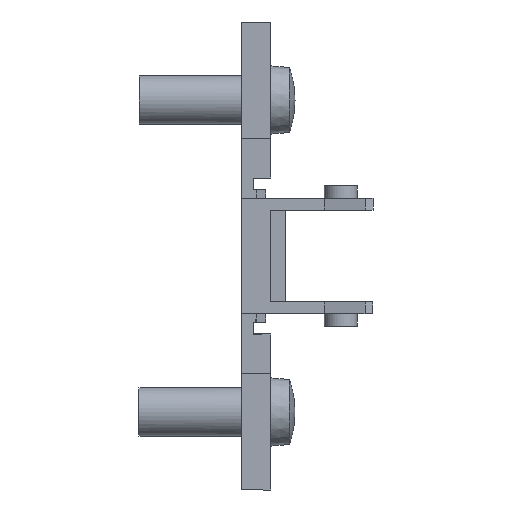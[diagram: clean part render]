
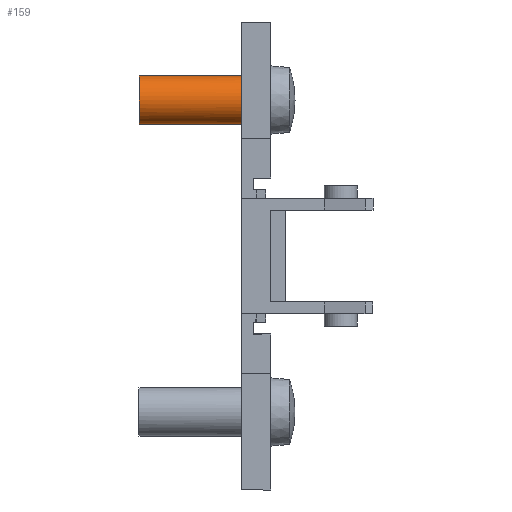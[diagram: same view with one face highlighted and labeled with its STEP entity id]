
A CAD part, front view. The second image highlights one B-rep face of the part: STEP entity #159.
In plain terms, the highlighted cylindrical face has radius 2.5 mm (diameter 5 mm), a partial arc.
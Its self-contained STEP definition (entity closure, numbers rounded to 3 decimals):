
#159 = ADVANCED_FACE ( 'NONE', ( #4139 ), #4166, .T. ) ;
#258 = EDGE_CURVE ( 'NONE', #4085, #4051, #3520, .T. ) ;
#315 = AXIS2_PLACEMENT_3D ( 'NONE', #3418, #3482, #3424 ) ;
#348 = AXIS2_PLACEMENT_3D ( 'NONE', #1349, #1348, #1320 ) ;
#410 = EDGE_CURVE ( 'NONE', #4064, #4069, #3633, .T. ) ;
#467 = AXIS2_PLACEMENT_3D ( 'NONE', #2179, #2205, #2206 ) ;
#495 = EDGE_CURVE ( 'NONE', #4051, #4069, #3670, .T. ) ;
#603 = AXIS2_PLACEMENT_3D ( 'NONE', #3217, #3332, #3333 ) ;
#611 = EDGE_CURVE ( 'NONE', #4070, #4065, #3774, .T. ) ;
#620 = AXIS2_PLACEMENT_3D ( 'NONE', #1725, #1733, #1734 ) ;
#1320 = DIRECTION ( 'NONE',  ( 0., 0., -1. ) ) ;
#1348 = DIRECTION ( 'NONE',  ( -1., 0., 0. ) ) ;
#1349 = CARTESIAN_POINT ( 'NONE',  ( -10.5, 0., 16. ) ) ;
#1513 = EDGE_CURVE ( 'NONE', #4070, #4064, #3875, .T. ) ;
#1573 = EDGE_CURVE ( 'NONE', #4065, #4085, #3986, .T. ) ;
#1625 = CARTESIAN_POINT ( 'NONE',  ( -10.5, 0., 13.5 ) ) ;
#1628 = DIRECTION ( 'NONE',  ( -1., 0., 0. ) ) ;
#1725 = CARTESIAN_POINT ( 'NONE',  ( 0., 0., 16. ) ) ;
#1733 = DIRECTION ( 'NONE',  ( 1., 0., 0. ) ) ;
#1734 = DIRECTION ( 'NONE',  ( 0., 0., -1. ) ) ;
#2079 = CARTESIAN_POINT ( 'NONE',  ( -10.5, 0., 18.5 ) ) ;
#2080 = DIRECTION ( 'NONE',  ( -1., 0., 0. ) ) ;
#2179 = CARTESIAN_POINT ( 'NONE',  ( 0., 0., 16. ) ) ;
#2205 = DIRECTION ( 'NONE',  ( 1., 0., 0. ) ) ;
#2206 = DIRECTION ( 'NONE',  ( 0., 0., -1. ) ) ;
#2283 = CARTESIAN_POINT ( 'NONE',  ( 0., 0., 13.5 ) ) ;
#2295 = CARTESIAN_POINT ( 'NONE',  ( -10.5, 0., 18.5 ) ) ;
#2296 = CARTESIAN_POINT ( 'NONE',  ( 0., -2.25, 17.09 ) ) ;
#2299 = CARTESIAN_POINT ( 'NONE',  ( -10.5, 0., 13.5 ) ) ;
#2300 = CARTESIAN_POINT ( 'NONE',  ( 0., 0., 18.5 ) ) ;
#2314 = CARTESIAN_POINT ( 'NONE',  ( 0., -2.25, 14.91 ) ) ;
#2447 = ORIENTED_EDGE ( 'NONE', *, *, #1513, .T. ) ;
#2456 = ORIENTED_EDGE ( 'NONE', *, *, #611, .F. ) ;
#2465 = ORIENTED_EDGE ( 'NONE', *, *, #410, .T. ) ;
#2469 = ORIENTED_EDGE ( 'NONE', *, *, #258, .F. ) ;
#2476 = ORIENTED_EDGE ( 'NONE', *, *, #1573, .F. ) ;
#2481 = ORIENTED_EDGE ( 'NONE', *, *, #495, .F. ) ;
#3217 = CARTESIAN_POINT ( 'NONE',  ( 0., 0., 16. ) ) ;
#3332 = DIRECTION ( 'NONE',  ( 1., 0., 0. ) ) ;
#3333 = DIRECTION ( 'NONE',  ( 0., 0., -1. ) ) ;
#3418 = CARTESIAN_POINT ( 'NONE',  ( -10.5, 0., 16. ) ) ;
#3424 = DIRECTION ( 'NONE',  ( 0., 0., -1. ) ) ;
#3482 = DIRECTION ( 'NONE',  ( 1., 0., 0. ) ) ;
#3520 = CIRCLE ( 'NONE', #603, 2.5 ) ;
#3633 = CIRCLE ( 'NONE', #315, 2.5 ) ;
#3670 = LINE ( 'NONE', #1625, #3685 ) ;
#3685 = VECTOR ( 'NONE', #1628, 1000. ) ;
#3774 = CIRCLE ( 'NONE', #620, 2.5 ) ;
#3875 = LINE ( 'NONE', #2079, #3876 ) ;
#3876 = VECTOR ( 'NONE', #2080, 1000. ) ;
#3986 = CIRCLE ( 'NONE', #467, 2.5 ) ;
#4051 = VERTEX_POINT ( 'NONE', #2283 ) ;
#4064 = VERTEX_POINT ( 'NONE', #2295 ) ;
#4065 = VERTEX_POINT ( 'NONE', #2296 ) ;
#4069 = VERTEX_POINT ( 'NONE', #2299 ) ;
#4070 = VERTEX_POINT ( 'NONE', #2300 ) ;
#4085 = VERTEX_POINT ( 'NONE', #2314 ) ;
#4103 = EDGE_LOOP ( 'NONE', ( #2456, #2447, #2465, #2481, #2469, #2476 ) ) ;
#4139 = FACE_OUTER_BOUND ( 'NONE', #4103, .T. ) ;
#4166 = CYLINDRICAL_SURFACE ( 'NONE', #348, 2.5 ) ;
